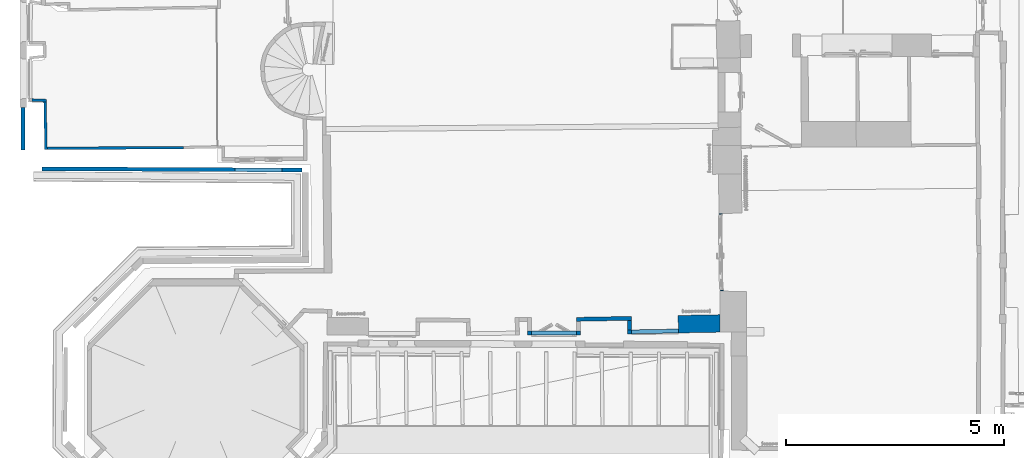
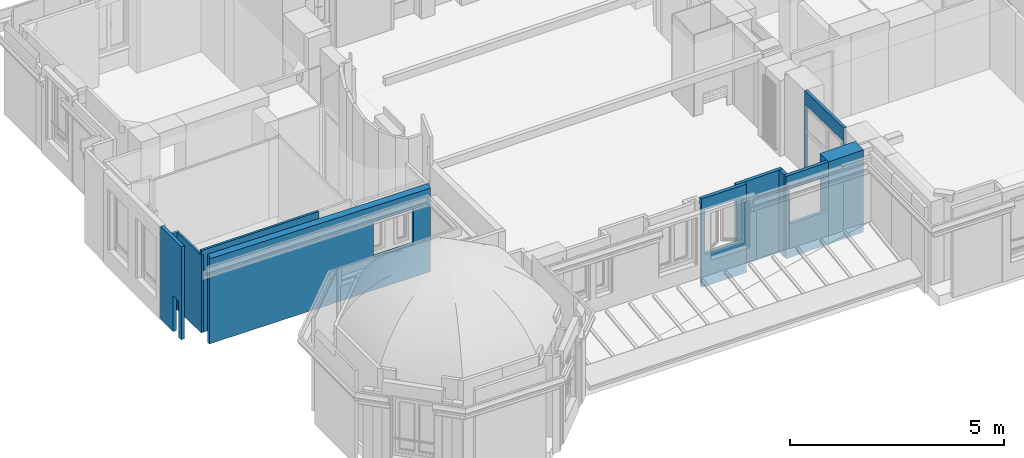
# One storey, part 8 of 72: 11 walls, 4 openings.
"""IFC2X3 building model written with IfcOpenShell, lengths in centimetres."""

from ifc_helpers import new_model, entity, si_unit, converted_unit, direction, frame, origin, origin_with_axes, origin_2d_with_axis, place, context, subcontext, project, spatial, polyline, rectangle, outline, extrude, clip, bounded_halfspace, shape, material, layer, layer_set, layer_usage, type_object, element, save


model = new_model("IFC2X3")

# Units and contexts
model_context = context("Model", 3, precision=0.0001, world=origin(), true_north=direction((0.225632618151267, 0.974212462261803, 0.0)))
body_context = subcontext(model_context, "Body", "Model", "MODEL_VIEW")
footprint_context = subcontext(model_context, "FootPrint", "Model", "MODEL_VIEW")
profile_context = subcontext(model_context, "Profile", "Model", "MODEL_VIEW")
ifc_project = project(units=[si_unit("LENGTHUNIT", "METRE", prefix="CENTI"), si_unit("AREAUNIT", "SQUARE_METRE", prefix="CENTI"), si_unit("VOLUMEUNIT", "CUBIC_METRE", prefix="CENTI"), converted_unit("PLANEANGLEUNIT", "DEGREE", entity("IfcRatioMeasure", 0.0174532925), si_unit("PLANEANGLEUNIT", "RADIAN"), dimensions=[0, 0, 0, 0, 0, 0, 0])], contexts=[model_context])

# Site, building, storey
site_placement = place(None, origin_with_axes())
site = spatial("IfcSite", under=ifc_project, at=site_placement, Name="Default Site", CompositionType="ELEMENT")
building_placement = place(site_placement, origin_with_axes())
building = spatial("IfcBuilding", under=site, at=building_placement, Name="Default Building", CompositionType="ELEMENT")
storey_placement = place(building_placement, frame((0.0, 0.0, 853.910374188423), z_axis=(0.0, 0.0, 1.0), x_axis=(1.0, 0.0, 0.0)))
storey = spatial("IfcBuildingStorey", under=building, at=storey_placement, Name="Niveau 2", CompositionType="ELEMENT", Elevation=853.910374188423)

# Wall, opening
ifc_material = material(Name="<aucun>")
ifc_layer_1 = layer(ifc_material, 9.0)
ifc_layer_set_1 = layer_set([ifc_layer_1], Name="default")
ifc_layer_usage_1 = layer_usage(ifc_layer_set_1, "AXIS2", "POSITIVE", -4.5)
wall_type_1 = type_object("IfcWallType", Name="default 90", PredefinedType="NOTDEFINED", material=ifc_layer_set_1)
wall_1_placement = place(storey_placement, frame((-714.699693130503, -339.229958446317, -1.95399252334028e-11), z_axis=(0.0, 0.0, 1.0), x_axis=(-0.999988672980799, 0.00475961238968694, 0.0)))
solid = clip(clip(clip(clip(clip(clip(clip(clip(extrude(rectangle(XDim=9.00000000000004, YDim=595.475099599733, at=origin_2d_with_axis()), frame((297.737549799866, 2.62012633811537e-12, 1.98951966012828e-11), z_axis=(0.0, 0.0, 1.0), x_axis=(0.0, -1.0, 0.0)), (0.0, 0.0, 1.0), 251.24577800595), bounded_halfspace(frame((595.475099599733, -1.63673356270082, 248.578882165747), z_axis=(0.00564037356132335, -0.681557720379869, -0.731742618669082), x_axis=(0.00216180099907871, -0.731744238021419, 0.681575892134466)), True, frame((595.475099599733, -1.63673356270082, 248.578882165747), z_axis=(0.0, 0.0, 1.0), x_axis=(1.0, 0.0, 0.0)), polyline([(-0.0181298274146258, 6.13673356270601), (1.77635683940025e-13, 0.0), (0.0, 6.13673356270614), (-0.0181298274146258, 6.13673356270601)]))), bounded_halfspace(frame((0.0488563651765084, -4.50000000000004, 246.656149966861), z_axis=(0.00564037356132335, -0.681557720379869, -0.731742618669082), x_axis=(-0.00543571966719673, 0.731722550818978, -0.681580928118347)), True, frame((0.0488563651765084, -4.50000000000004, 246.656149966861), z_axis=(0.0, 0.0, 1.0), x_axis=(1.0, 0.0, 0.0)), polyline([(-0.0488563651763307, 0.0), (0.0, 0.0), (-0.0488563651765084, 6.57673801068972), (-0.0488563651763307, 0.0)]))), bounded_halfspace(frame((139.849235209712, 2.19883578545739, 241.494339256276), z_axis=(0.00564037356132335, -0.681557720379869, -0.731742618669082), x_axis=(0.999975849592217, 0.000873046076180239, 0.00689478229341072)), True, frame((139.849235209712, 2.19883578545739, 241.494339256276), z_axis=(0.0, 0.0, 1.0), x_axis=(1.0, 0.0, 0.0)), polyline([(-139.849235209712, -0.122097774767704), (0.0, 0.0), (0.00586473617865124, 2.30116421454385), (-139.849235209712, 2.30116421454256), (-139.849235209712, -0.122097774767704)]))), bounded_halfspace(frame((595.475099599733, -4.49999999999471, 251.24577800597), z_axis=(0.00564037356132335, -0.681557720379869, -0.731742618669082), x_axis=(5.64132074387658e-15, 0.731754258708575, -0.681568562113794)), True, frame((595.475099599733, -4.49999999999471, 251.24577800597), z_axis=(0.0, 0.0, 1.0), x_axis=(1.0, 0.0, 0.0)), polyline([(-129.599610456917, 8.61682684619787), (-129.574153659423, -1.15463194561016e-12), (1.77635683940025e-13, -4.44089209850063e-14), (-0.0181298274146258, 8.9999999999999), (-129.599610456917, 8.61682684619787)]))), bounded_halfspace(frame((415.602542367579, -4.49999999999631, 249.859295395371), z_axis=(0.00564037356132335, -0.681557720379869, -0.731742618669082), x_axis=(-0.999970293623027, -8.56953397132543e-15, -0.0077079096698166)), True, frame((415.602542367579, -4.49999999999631, 249.859295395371), z_axis=(0.0, 0.0, 1.0), x_axis=(1.0, 0.0, 0.0)), polyline([(-53.6511475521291, -5.77315972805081e-13), (0.0, 0.0), (0.0393045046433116, 8.99999999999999), (-53.659005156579, 8.99999999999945), (-53.6511475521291, -5.77315972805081e-13)]))), bounded_halfspace(frame((447.276003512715, -4.499999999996, 250.103438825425), z_axis=(0.00564037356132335, -0.681557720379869, -0.731742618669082), x_axis=(0.999970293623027, 1.06529368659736e-14, 0.00770790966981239)), True, frame((447.276003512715, -4.499999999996, 250.103438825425), z_axis=(0.0, 0.0, 1.0), x_axis=(1.0, 0.0, 0.0)), polyline([(-31.6734611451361, -3.10862446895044e-13), (1.77635683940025e-13, -4.44089209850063e-14), (0.0337906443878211, 9.00000000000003), (-31.6341566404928, 8.99999999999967), (-31.6734611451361, -3.10862446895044e-13)]))), bounded_halfspace(frame((361.95139481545, -4.49999999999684, 249.445744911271), z_axis=(0.00564037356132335, -0.681557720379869, -0.731742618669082), x_axis=(0.000638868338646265, -0.731751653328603, 0.68157105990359)), True, frame((361.95139481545, -4.49999999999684, 249.445744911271), z_axis=(0.0, 0.0, 1.0), x_axis=(1.0, 0.0, 0.0)), polyline([(-177.669020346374, -1.59872115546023e-12), (0.0, -4.44089209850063e-14), (-0.00785760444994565, 8.99999999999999), (-177.676877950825, 8.99999999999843), (-177.669020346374, -1.59872115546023e-12)]))), bounded_halfspace(frame((146.849273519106, 2.20494728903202, 241.542604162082), z_axis=(0.00564037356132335, -0.681557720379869, -0.731742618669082), x_axis=(-0.00186496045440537, -0.731760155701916, 0.681559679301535)), True, frame((146.849273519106, 2.20494728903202, 241.542604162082), z_axis=(0.0, 0.0, 1.0), x_axis=(1.0, 0.0, 0.0)), polyline([(-7.00003830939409, -0.00611150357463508), (0.0, -4.44089209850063e-14), (0.00584916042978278, 2.29505271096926), (-6.99417357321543, 2.29505271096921), (-7.00003830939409, -0.00611150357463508)])))
wall_1 = element("IfcWallStandardCase", 1, at=wall_1_placement, inside=storey, type_object=wall_type_1, material=ifc_layer_usage_1, Name="Enveloppe 465666", context=body_context, shape_type="Clipping", body=[
    clip(clip(clip(solid, bounded_halfspace(frame((184.276492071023, 2.237623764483, 241.800662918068), z_axis=(0.00564037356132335, -0.681557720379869, -0.731742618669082), x_axis=(-0.00186496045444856, -0.731760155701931, 0.681559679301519)), True, frame((184.276492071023, 2.237623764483, 241.800662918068), z_axis=(0.0, 0.0, 1.0), x_axis=(1.0, 0.0, 0.0)), polyline([(-37.4272185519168, -0.0326764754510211), (0.0, -4.44089209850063e-14), (-0.00197520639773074, 2.26237623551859), (-37.421369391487, 2.26237623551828), (-37.4272185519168, -0.0326764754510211)]))), bounded_halfspace(frame((465.90094594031, -4.49999999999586, 250.247002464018), z_axis=(0.00564037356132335, -0.681557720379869, -0.731742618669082), x_axis=(-0.00274741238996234, -0.731762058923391, 0.681554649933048)), True, frame((465.90094594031, -4.49999999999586, 250.247002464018), z_axis=(0.0, 0.0, 1.0), x_axis=(1.0, 0.0, 0.0)), polyline([(-18.6249424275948, -1.77635683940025e-13), (1.77635683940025e-13, 0.0), (-0.0254567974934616, 8.61682684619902), (129.556023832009, 9.00000000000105), (-18.5911517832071, 8.9999999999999), (-18.6249424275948, -1.77635683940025e-13)]))), bounded_halfspace(frame((184.282374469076, -4.49999999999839, 248.07624746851), z_axis=(0.00564037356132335, -0.681557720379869, -0.731742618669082), x_axis=(-0.000638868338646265, 0.731751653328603, -0.68157105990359)), True, frame((184.282374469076, -4.49999999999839, 248.07624746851), z_axis=(0.0, 0.0, 1.0), x_axis=(1.0, 0.0, 0.0)), polyline([(-184.282374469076, 6.57673801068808), (-184.233518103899, -1.64313007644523e-12), (0.0, -4.44089209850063e-14), (-0.00588239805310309, 6.73762376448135), (-184.282374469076, 6.57673801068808)]))),
])
opening_1_placement = place(wall_1_placement, frame((45.3330110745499, 4.54747350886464e-13, 94.0000000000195), z_axis=(0.0, 0.0, 1.0), x_axis=(1.0, 8.90520296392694e-15, 0.0)))
cartesian_point_1 = entity("IfcCartesianPoint", [0.0, -4.44089209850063e-14, 99.9999999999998])
cartesian_point_2 = entity("IfcCartesianPoint", [107.647964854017, 4.49999999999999])
element("IfcOpeningElement", 2, at=opening_1_placement, cuts=wall_1, Name="Baie 2052964", ObjectType="Opening", shapes=[
    shape(body_context, "Body", "SweptSolid", [extrude(outline(polyline([(8.88178419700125e-14, 99.9999999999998), (8.88178419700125e-14, -1.77635683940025e-13), (107.647964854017, -1.77635683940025e-13), (107.647964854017, 99.9999999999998), (8.88178419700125e-14, 99.9999999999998)])), frame((0.0, 14.5, 0.0), z_axis=(0.0, -1.0, 0.0), x_axis=(1.0, 0.0, 0.0)), (0.0, 0.0, 1.0), 29.0)]),
    shape(profile_context, "Profile", "GeometricCurveSet", [entity("IfcGeometricCurveSet", [entity("IfcPolyline", [cartesian_point_1, entity("IfcCartesianPoint", [0.0, -4.44089209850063e-14, -1.77635683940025e-13]), entity("IfcCartesianPoint", [107.647964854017, -4.44089209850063e-14, -1.77635683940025e-13]), entity("IfcCartesianPoint", [107.647964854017, -4.44089209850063e-14, 99.9999999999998]), cartesian_point_1])])]),
    shape(footprint_context, "FootPrint", "GeometricCurveSet", [entity("IfcGeometricCurveSet", [entity("IfcPolyline", [cartesian_point_2, entity("IfcCartesianPoint", [8.88178419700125e-14, 4.49999999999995]), entity("IfcCartesianPoint", [-8.88178419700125e-14, -4.50000000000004]), entity("IfcCartesianPoint", [107.647964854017, -4.50000000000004]), cartesian_point_2])])]),
])

ifc_layer_usage_2 = layer_usage(ifc_layer_set_1, "AXIS2", "POSITIVE", -4.5)
wall_2_placement = place(storey_placement, frame((35.5624064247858, -709.909420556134, 1.4210854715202e-12), z_axis=(0.0, 0.0, 1.0), x_axis=(0.999825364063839, 0.0186880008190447, 0.0)))
wall_2 = element("IfcWallStandardCase", 3, at=wall_2_placement, inside=storey, type_object=wall_type_1, material=ifc_layer_usage_2, Name="Enveloppe 467705", context=body_context, shape_type="SweptSolid", body=[
    extrude(rectangle(XDim=116.315319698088, YDim=9.00000000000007, at=origin_2d_with_axis()), frame((53.6576598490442, 8.88178419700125e-14, -3.5527136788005e-13), z_axis=(0.0, 0.0, 1.0), x_axis=(1.0, 5.20417042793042e-16, 0.0)), (0.0, 0.0, 1.0), 234.999999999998),
])
opening_2_placement = place(wall_2_placement, frame((4.50000000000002, 0.0, 95.4999999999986), z_axis=(0.0, 0.0, 1.0), x_axis=(1.0, 5.23886489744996e-16, 0.0)))
cartesian_point_3 = entity("IfcCartesianPoint", [5.55111512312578e-15, 8.88178419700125e-14, 100.0])
cartesian_point_4 = entity("IfcCartesianPoint", [107.315319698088, 4.50000000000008])
element("IfcOpeningElement", 4, at=opening_2_placement, cuts=wall_2, Name="4294966446_11", ObjectType="Opening", shapes=[
    shape(body_context, "Body", "SweptSolid", [extrude(outline(polyline([(5.55111512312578e-15, 100.0), (5.55111512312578e-15, 0.0), (107.315319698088, 0.0), (107.315319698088, 100.0), (5.55111512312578e-15, 100.0)])), frame((0.0, 14.5, 0.0), z_axis=(0.0, -1.0, 0.0), x_axis=(1.0, 0.0, 0.0)), (0.0, 0.0, 1.0), 29.0)]),
    shape(profile_context, "Profile", "GeometricCurveSet", [entity("IfcGeometricCurveSet", [entity("IfcPolyline", [cartesian_point_3, entity("IfcCartesianPoint", [5.55111512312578e-15, 8.88178419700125e-14, 0.0]), entity("IfcCartesianPoint", [107.315319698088, 8.88178419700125e-14, 0.0]), entity("IfcCartesianPoint", [107.315319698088, 8.88178419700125e-14, 100.0]), cartesian_point_3])])]),
    shape(footprint_context, "FootPrint", "GeometricCurveSet", [entity("IfcGeometricCurveSet", [entity("IfcPolyline", [cartesian_point_4, entity("IfcCartesianPoint", [5.55111512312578e-15, 4.50000000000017]), entity("IfcCartesianPoint", [5.55111512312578e-15, -4.4999999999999]), entity("IfcCartesianPoint", [107.315319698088, -4.4999999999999]), cartesian_point_4])])]),
])

# Walls
ifc_layer_usage_3 = layer_usage(ifc_layer_set_1, "AXIS2", "POSITIVE", -4.5)
wall_3_placement = place(storey_placement, frame((35.4783104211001, -705.410206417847, -1.95399252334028e-11), z_axis=(0.0, 0.0, 1.0), x_axis=(-0.018688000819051, 0.999825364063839, 0.0)))
element("IfcWallStandardCase", 5, at=wall_3_placement, inside=storey, type_object=wall_type_1, material=ifc_layer_usage_3, Name="Enveloppe 467822", context=body_context, shape_type="SweptSolid", body=[
    extrude(rectangle(XDim=9.0, YDim=21.9999999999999, at=origin_2d_with_axis()), frame((10.9999999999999, -6.10622663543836e-14, 1.98951966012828e-11), z_axis=(0.0, 0.0, 1.0), x_axis=(3.46944695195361e-18, -1.0, 0.0)), (0.0, 0.0, 1.0), 234.999999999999),
])
ifc_layer_usage_4 = layer_usage(ifc_layer_set_1, "AXIS2", "POSITIVE", -4.5)
wall_4_placement = place(storey_placement, frame((-77.1064912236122, -681.009930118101, 1.4210854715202e-12), z_axis=(0.0, 0.0, 1.0), x_axis=(0.999825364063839, 0.018688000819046, 0.0)))
element("IfcWallStandardCase", 6, at=wall_4_placement, inside=storey, type_object=wall_type_1, material=ifc_layer_usage_4, Name="Enveloppe 467823", context=body_context, shape_type="SweptSolid", body=[
    extrude(outline(polyline([(-8.53107760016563, 4.50000000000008), (-8.67797120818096, -4.49999999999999), (116.609147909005, -4.50000000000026), (116.609147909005, 4.49999999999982), (-8.53107760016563, 4.50000000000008)])), origin_with_axes(), (0.0, 0.0, 1.0), 234.999999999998),
])

# Wall, opening
ifc_layer_usage_5 = layer_usage(ifc_layer_set_1, "AXIS2", "POSITIVE", -4.5)
wall_5_placement = place(storey_placement, frame((-199.135262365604, -712.29970622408, 1.4210854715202e-12), z_axis=(0.0, 0.0, 1.0), x_axis=(0.999997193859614, 0.00236902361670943, 0.0)))
wall_5 = element("IfcWallStandardCase", 7, at=wall_5_placement, inside=storey, type_object=wall_type_1, material=ifc_layer_usage_5, Name="Enveloppe 158791", context=body_context, shape_type="Clipping", body=[
    clip(clip(extrude(rectangle(XDim=122.499176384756, YDim=8.99999999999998, at=origin_2d_with_axis()), frame((61.249588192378, 0.0, 0.0), z_axis=(0.0, 0.0, 1.0), x_axis=(1.0, -8.23993651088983e-17, 0.0)), (0.0, 0.0, 1.0), 252.866476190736), bounded_halfspace(frame((0.0, 4.49999999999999, 234.999999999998), z_axis=(0.0, 0.0, 1.0), x_axis=(1.0, 2.93571590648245e-14, 0.0)), True, frame((0.0, 4.49999999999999, 234.999999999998), z_axis=(0.0, 0.0, 1.0), x_axis=(1.0, 0.0, 0.0)), polyline([(0.0, -8.99999999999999), (0.0, 0.0), (1.33631158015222, 0.0), (1.33631158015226, -9.00000000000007), (0.0, -8.99999999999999)]))), bounded_halfspace(frame((122.499176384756, 4.4999999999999, 234.999999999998), z_axis=(0.0, 0.0, -1.0), x_axis=(-1.0, 4.07195978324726e-14, 0.0)), True, frame((122.499176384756, 4.4999999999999, 234.999999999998), z_axis=(0.0, 0.0, 1.0), x_axis=(1.0, 0.0, 0.0)), polyline([(-0.470058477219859, -8.9999999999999), (-8.88178419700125e-14, -8.9999999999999), (0.0, -8.88178419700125e-14), (-0.470058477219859, 8.88178419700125e-14), (-0.470058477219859, -8.9999999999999)]))),
])
opening_3_placement = place(wall_5_placement, frame((10.3363115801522, -1.13686837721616e-13, 92.2999999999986), z_axis=(0.0, 0.0, 1.0), x_axis=(1.0, 7.19910242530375e-17, 0.0)))
cartesian_point_5 = entity("IfcCartesianPoint", [2.22044604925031e-14, 0.0, 125.0])
cartesian_point_6 = entity("IfcCartesianPoint", [103.162864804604, 4.49999999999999])
element("IfcOpeningElement", 8, at=opening_3_placement, cuts=wall_5, Name="4294966443_11", ObjectType="Opening", shapes=[
    shape(body_context, "Body", "SweptSolid", [extrude(outline(polyline([(2.22044604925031e-14, 125.0), (0.0, 0.0), (103.162864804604, 0.0), (103.162864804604, 125.0), (2.22044604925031e-14, 125.0)])), frame((0.0, 14.5, 0.0), z_axis=(0.0, -1.0, 0.0), x_axis=(1.0, 0.0, 0.0)), (0.0, 0.0, 1.0), 29.0)]),
    shape(profile_context, "Profile", "GeometricCurveSet", [entity("IfcGeometricCurveSet", [entity("IfcPolyline", [cartesian_point_5, entity("IfcCartesianPoint", [0.0, 0.0, 0.0]), entity("IfcCartesianPoint", [103.162864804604, 8.88178419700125e-14, 0.0]), entity("IfcCartesianPoint", [103.162864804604, 8.88178419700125e-14, 125.0]), cartesian_point_5])])]),
    shape(footprint_context, "FootPrint", "GeometricCurveSet", [entity("IfcGeometricCurveSet", [entity("IfcPolyline", [cartesian_point_6, entity("IfcCartesianPoint", [0.0, 4.49999999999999]), entity("IfcCartesianPoint", [0.0, -4.49999999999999]), entity("IfcCartesianPoint", [103.162864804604, -4.4999999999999]), cartesian_point_6])])]),
])

# Walls
ifc_layer_usage_6 = layer_usage(ifc_layer_set_1, "AXIS2", "POSITIVE", -4.5)
wall_6_placement = place(storey_placement, frame((-1353.95755886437, -293.449799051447, -1.95399252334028e-11), z_axis=(0.0, 0.0, 1.0), x_axis=(0.00124083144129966, 0.999999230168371, 0.0)))
element("IfcWallStandardCase", 9, at=wall_6_placement, inside=storey, type_object=wall_type_1, material=ifc_layer_usage_6, Name="Enveloppe 465629", context=body_context, shape_type="Clipping", body=[
    clip(clip(extrude(outline(polyline([(25.6693930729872, 4.49999999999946), (0.265141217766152, 4.49999999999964), (0.265141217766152, -4.50000000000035), (25.6693930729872, -4.50000000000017), (97.4617335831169, -4.50000000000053), (97.4617335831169, 4.49999999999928), (25.6693930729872, 4.49999999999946)])), frame((0.0, 0.0, 1.98951966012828e-11), z_axis=(0.0, 0.0, 1.0), x_axis=(1.0, 0.0, 0.0)), (0.0, 0.0, 1.0), 265.06162581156), bounded_halfspace(frame((12.6637993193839, 4.49999999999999, 101.658645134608), z_axis=(0.0, 0.0, 1.0), x_axis=(1.0, -1.02953669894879e-14, 0.0)), True, frame((12.6637993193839, 4.49999999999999, 101.658645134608), z_axis=(0.0, 0.0, 1.0), x_axis=(1.0, 0.0, 0.0)), polyline([(0.0, 1.77635683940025e-13), (13.0055937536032, 0.0), (13.0055937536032, -8.99999999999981), (0.0111674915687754, -8.99999999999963), (0.0, 1.77635683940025e-13)]))), bounded_halfspace(frame((25.6693930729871, 4.49999999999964, 101.658645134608), z_axis=(0.0, 0.0, 1.0), x_axis=(1.0, -1.93985452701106e-15, 0.0)), True, frame((25.6693930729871, 4.49999999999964, 101.658645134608), z_axis=(0.0, 0.0, 1.0), x_axis=(1.0, 0.0, 0.0)), polyline([(-4.44089209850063e-14, -8.99999999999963), (-4.44089209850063e-14, 1.77635683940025e-13), (12.9944262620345, -1.77635683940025e-13), (13.0055937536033, -8.99999999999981), (-4.44089209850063e-14, -8.99999999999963)]))),
])
ifc_layer_2 = layer(ifc_material, 6.0)
ifc_layer_set_2 = layer_set([ifc_layer_2], Name="default")
ifc_layer_usage_7 = layer_usage(ifc_layer_set_2, "AXIS2", "POSITIVE", -3.0)
wall_type_2 = type_object("IfcWallType", Name="default 60", PredefinedType="NOTDEFINED", material=ifc_layer_set_2)
wall_7_placement = place(storey_placement, frame((-1303.72975829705, -289.406401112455, 1.4210854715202e-12), z_axis=(0.0, 0.0, 1.0), x_axis=(0.999990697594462, 0.00431331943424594, 0.0)))
element("IfcWallStandardCase", 10, at=wall_7_placement, inside=storey, type_object=wall_type_2, material=ifc_layer_usage_7, Name="Enveloppe 176690", context=body_context, shape_type="Clipping", body=[
    clip(extrude(rectangle(XDim=317.790513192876, YDim=6.00000000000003, at=origin_2d_with_axis()), frame((158.895256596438, -2.39808173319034e-12, -5.32907051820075e-13), z_axis=(0.0, 0.0, 1.0), x_axis=(1.0, -1.51415338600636e-14, 0.0)), (0.0, 0.0, 1.0), 234.999999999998), bounded_halfspace(frame((0.0, 3.00000000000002, 221.999999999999), z_axis=(0.0, 0.0, 1.0), x_axis=(1.0, -1.46722911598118e-14, 0.0)), True, frame((0.0, 3.00000000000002, 221.999999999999), z_axis=(0.0, 0.0, 1.0), x_axis=(1.0, 0.0, 0.0)), polyline([(0.0, -6.00000000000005), (0.0, 0.0), (5.58732957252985, -8.88178419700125e-14), (5.67875006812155, -6.00000000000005), (0.0, -6.00000000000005)]))),
])
ifc_layer_usage_8 = layer_usage(ifc_layer_set_2, "AXIS2", "POSITIVE", -3.0)
wall_8_placement = place(storey_placement, frame((-1301.15652475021, -286.355182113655, 1.4210854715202e-12), z_axis=(0.0, 0.0, 1.0), x_axis=(-0.0195476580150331, 0.99980892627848, 0.0)))
element("IfcWallStandardCase", 11, at=wall_8_placement, inside=storey, type_object=wall_type_2, material=ifc_layer_usage_8, Name="Enveloppe 176519", context=body_context, shape_type="SweptSolid", body=[
    extrude(outline(polyline([(103.493631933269, 3.00000000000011), (-5.99369388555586, 2.99997285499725), (-6.08650277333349, -3.00000000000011), (103.125822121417, -2.99999999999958), (103.493631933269, 3.00000000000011)])), frame((0.0, 0.0, -3.5527136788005e-13), z_axis=(0.0, 0.0, 1.0), x_axis=(1.0, 0.0, 0.0)), (0.0, 0.0, 1.0), 221.999999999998),
])
ifc_layer_usage_9 = layer_usage(ifc_layer_set_2, "AXIS2", "POSITIVE", -3.0)
wall_9_placement = place(storey_placement, frame((-1299.90938731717, -180.198805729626, 1.4210854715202e-12), z_axis=(0.0, 0.0, 1.0), x_axis=(-0.999131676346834, 0.0416640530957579, 0.0)))
element("IfcWallStandardCase", 12, at=wall_9_placement, inside=storey, type_object=wall_type_2, material=ifc_layer_usage_9, Name="Enveloppe 176439", context=body_context, shape_type="SweptSolid", body=[
    extrude(outline(polyline([(33.2434470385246, 2.99999999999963), (0.138707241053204, 2.99999999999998), (0.506517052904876, -3.00000000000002), (33.4507191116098, -3.00000000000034), (33.2434470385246, 2.99999999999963)])), frame((0.0, 0.0, -5.32907051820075e-13), z_axis=(0.0, 0.0, 1.0), x_axis=(1.0, 0.0, 0.0)), (0.0, 0.0, 1.0), 221.999999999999),
])
ifc_layer_3 = layer(ifc_material, 40.0)
ifc_layer_set_3 = layer_set([ifc_layer_3], Name="default")
ifc_layer_usage_10 = layer_usage(ifc_layer_set_3, "AXIS2", "POSITIVE", -20.0)
wall_type_3 = type_object("IfcWallType", Name="default 400", PredefinedType="NOTDEFINED", material=ifc_layer_set_3)
wall_10_placement = place(storey_placement, frame((147.068535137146, -692.322522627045, 1.4210854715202e-12), z_axis=(0.0, 0.0, 1.0), x_axis=(0.999825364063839, 0.0186880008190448, 0.0)))
element("IfcWallStandardCase", 13, at=wall_10_placement, inside=storey, type_object=wall_type_3, material=ifc_layer_usage_10, Name="Enveloppe 150782", context=body_context, shape_type="SweptSolid", body=[
    extrude(outline(polyline([(0.0, 20.0), (2.22044604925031e-14, -20.0000000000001), (94.9505727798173, -19.9999999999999), (95.9247951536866, 20.0), (0.0, 20.0)])), origin_with_axes(), (0.0, 0.0, 1.0), 234.999999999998),
])

# Wall, opening
ifc_layer_4 = layer(ifc_material, 8.0)
ifc_layer_set_4 = layer_set([ifc_layer_4], Name="default")
ifc_layer_usage_11 = layer_usage(ifc_layer_set_4, "AXIS2", "POSITIVE", -4.0)
wall_type_4 = type_object("IfcWallType", Name="default 80", PredefinedType="NOTDEFINED", material=ifc_layer_set_4)
wall_11_placement = place(storey_placement, frame((247.217252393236, -617.565390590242, 1.4210854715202e-12), z_axis=(0.0, 0.0, 1.0), x_axis=(-0.0138356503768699, 0.999904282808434, 0.0)))
wall_11 = element("IfcWallStandardCase", 14, at=wall_11_placement, inside=storey, type_object=wall_type_4, material=ifc_layer_usage_11, Name="Enveloppe 152386", context=body_context, shape_type="SweptSolid", body=[
    extrude(rectangle(XDim=8.0, YDim=178.170172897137, at=origin_2d_with_axis()), frame((90.0063611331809, 3.5527136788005e-13, -3.5527136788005e-13), z_axis=(0.0, 0.0, 1.0), x_axis=(2.22790536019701e-14, -1.0, 0.0)), (0.0, 0.0, 1.0), 240.000000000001),
])
opening_4_placement = place(wall_11_placement, frame((3.4471458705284, 0.0, -3.5704772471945e-13), z_axis=(0.0, 0.0, 1.0), x_axis=(1.0, 3.24046345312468e-15, 0.0)))
cartesian_point_7 = entity("IfcCartesianPoint", [0.0, 0.0, 202.0])
cartesian_point_8 = entity("IfcCartesianPoint", [173.654073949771, 4.00000000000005])
element("IfcOpeningElement", 15, at=opening_4_placement, cuts=wall_11, Name="4294966390_11", ObjectType="Opening", shapes=[
    shape(body_context, "Body", "SweptSolid", [extrude(outline(polyline([(0.0, 202.0), (0.0, 0.0), (173.654073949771, 0.0), (173.654073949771, 202.0), (0.0, 202.0)])), frame((0.0, 14.0, 0.0), z_axis=(0.0, -1.0, 0.0), x_axis=(1.0, 0.0, 0.0)), (0.0, 0.0, 1.0), 28.0)]),
    shape(profile_context, "Profile", "GeometricCurveSet", [entity("IfcGeometricCurveSet", [entity("IfcPolyline", [cartesian_point_7, entity("IfcCartesianPoint", [0.0, 0.0, 0.0]), entity("IfcCartesianPoint", [173.654073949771, 0.0, 0.0]), entity("IfcCartesianPoint", [173.654073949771, 0.0, 202.0]), cartesian_point_7])])]),
    shape(footprint_context, "FootPrint", "GeometricCurveSet", [entity("IfcGeometricCurveSet", [entity("IfcPolyline", [cartesian_point_8, entity("IfcCartesianPoint", [0.0, 4.00000000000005]), entity("IfcCartesianPoint", [0.0, -4.0]), entity("IfcCartesianPoint", [173.654073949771, -4.0]), cartesian_point_8])])]),
])

save(model, "model.ifc")
